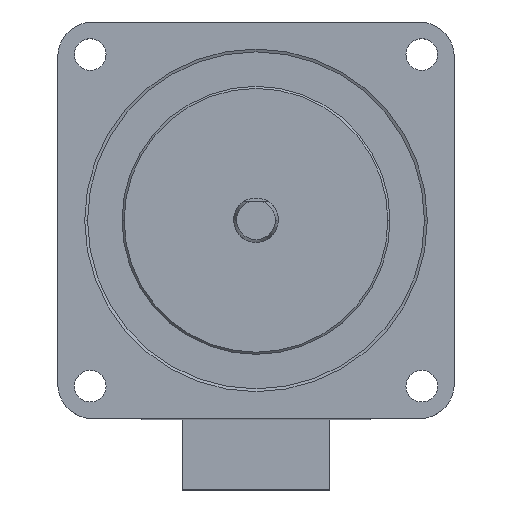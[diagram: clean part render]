
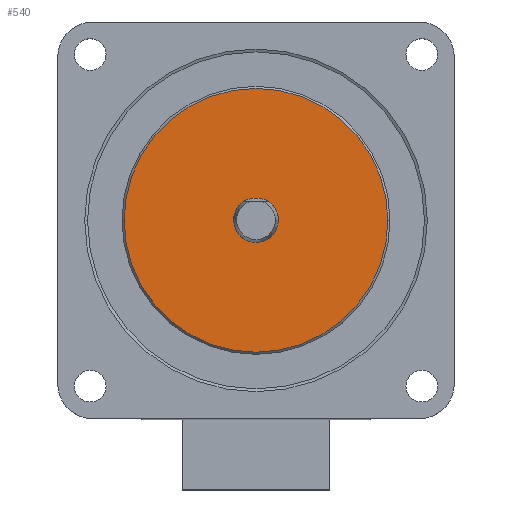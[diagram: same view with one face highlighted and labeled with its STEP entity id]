
A CAD part, top view. The second image highlights one B-rep face of the part: STEP entity #540.
In plain terms, the highlighted planar face has unit normal (0, 0, 1).
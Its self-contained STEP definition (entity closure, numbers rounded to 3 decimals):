
#38 = CARTESIAN_POINT ( 'NONE',  ( 0., 0., 0. ) ) ;
#194 = AXIS2_PLACEMENT_3D ( 'NONE', #1070, #2529, #2102 ) ;
#234 = DIRECTION ( 'NONE',  ( 0., 0., -1. ) ) ;
#275 = VERTEX_POINT ( 'NONE', #482 ) ;
#359 = EDGE_CURVE ( 'NONE', #1259, #2089, #1486, .T. ) ;
#402 = EDGE_CURVE ( 'NONE', #275, #1091, #2659, .T. ) ;
#482 = CARTESIAN_POINT ( 'NONE',  ( -18.75, 0., 0. ) ) ;
#540 = ADVANCED_FACE ( 'NONE', ( #1566, #2665 ), #1131, .F. ) ;
#637 = AXIS2_PLACEMENT_3D ( 'NONE', #1076, #2126, #2760 ) ;
#679 = EDGE_CURVE ( 'NONE', #1091, #275, #1561, .T. ) ;
#950 = AXIS2_PLACEMENT_3D ( 'NONE', #38, #234, #1315 ) ;
#996 = ORIENTED_EDGE ( 'NONE', *, *, #1985, .T. ) ;
#1020 = CIRCLE ( 'NONE', #2018, 3.175 ) ;
#1070 = CARTESIAN_POINT ( 'NONE',  ( 0., 0., 0. ) ) ;
#1076 = CARTESIAN_POINT ( 'NONE',  ( 0., 0., 0. ) ) ;
#1091 = VERTEX_POINT ( 'NONE', #2460 ) ;
#1131 = PLANE ( 'NONE',  #950 ) ;
#1142 = CARTESIAN_POINT ( 'NONE',  ( 0., 0., 0. ) ) ;
#1162 = EDGE_LOOP ( 'NONE', ( #996, #2195 ) ) ;
#1259 = VERTEX_POINT ( 'NONE', #1720 ) ;
#1315 = DIRECTION ( 'NONE',  ( -1., 0., 0. ) ) ;
#1384 = DIRECTION ( 'NONE',  ( -1., 0., 0. ) ) ;
#1486 = CIRCLE ( 'NONE', #194, 3.175 ) ;
#1561 = CIRCLE ( 'NONE', #2419, 18.75 ) ;
#1566 = FACE_OUTER_BOUND ( 'NONE', #2314, .T. ) ;
#1720 = CARTESIAN_POINT ( 'NONE',  ( 3.175, 0., 0. ) ) ;
#1950 = ORIENTED_EDGE ( 'NONE', *, *, #402, .T. ) ;
#1985 = EDGE_CURVE ( 'NONE', #2089, #1259, #1020, .T. ) ;
#1995 = ORIENTED_EDGE ( 'NONE', *, *, #679, .T. ) ;
#2018 = AXIS2_PLACEMENT_3D ( 'NONE', #2697, #2683, #2457 ) ;
#2089 = VERTEX_POINT ( 'NONE', #2719 ) ;
#2102 = DIRECTION ( 'NONE',  ( -1., 0., 0. ) ) ;
#2126 = DIRECTION ( 'NONE',  ( 0., 0., 1. ) ) ;
#2195 = ORIENTED_EDGE ( 'NONE', *, *, #359, .T. ) ;
#2314 = EDGE_LOOP ( 'NONE', ( #1950, #1995 ) ) ;
#2419 = AXIS2_PLACEMENT_3D ( 'NONE', #1142, #2436, #1384 ) ;
#2436 = DIRECTION ( 'NONE',  ( 0., 0., 1. ) ) ;
#2457 = DIRECTION ( 'NONE',  ( -1., 0., 0. ) ) ;
#2460 = CARTESIAN_POINT ( 'NONE',  ( 18.75, 0., 0. ) ) ;
#2529 = DIRECTION ( 'NONE',  ( 0., 0., -1. ) ) ;
#2659 = CIRCLE ( 'NONE', #637, 18.75 ) ;
#2665 = FACE_BOUND ( 'NONE', #1162, .T. ) ;
#2683 = DIRECTION ( 'NONE',  ( 0., 0., -1. ) ) ;
#2697 = CARTESIAN_POINT ( 'NONE',  ( 0., 0., 0. ) ) ;
#2719 = CARTESIAN_POINT ( 'NONE',  ( -3.175, 0., 0. ) ) ;
#2760 = DIRECTION ( 'NONE',  ( -1., 0., 0. ) ) ;
